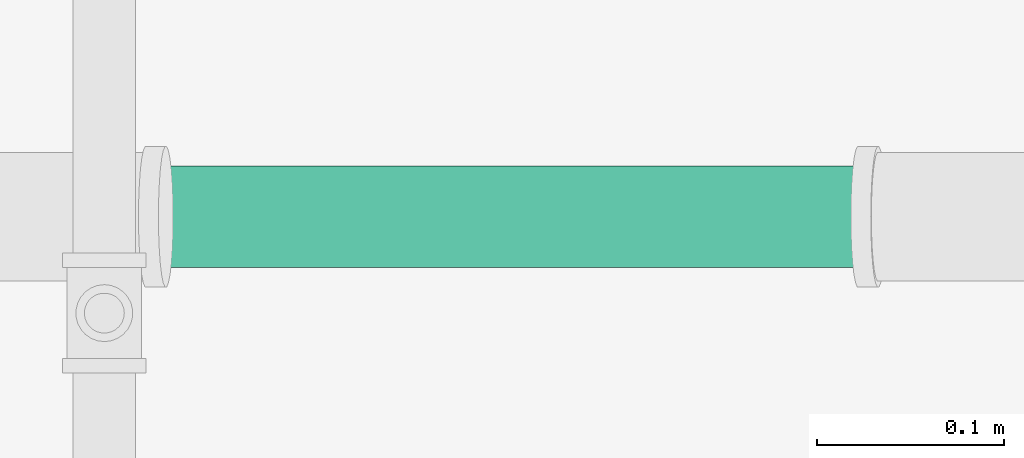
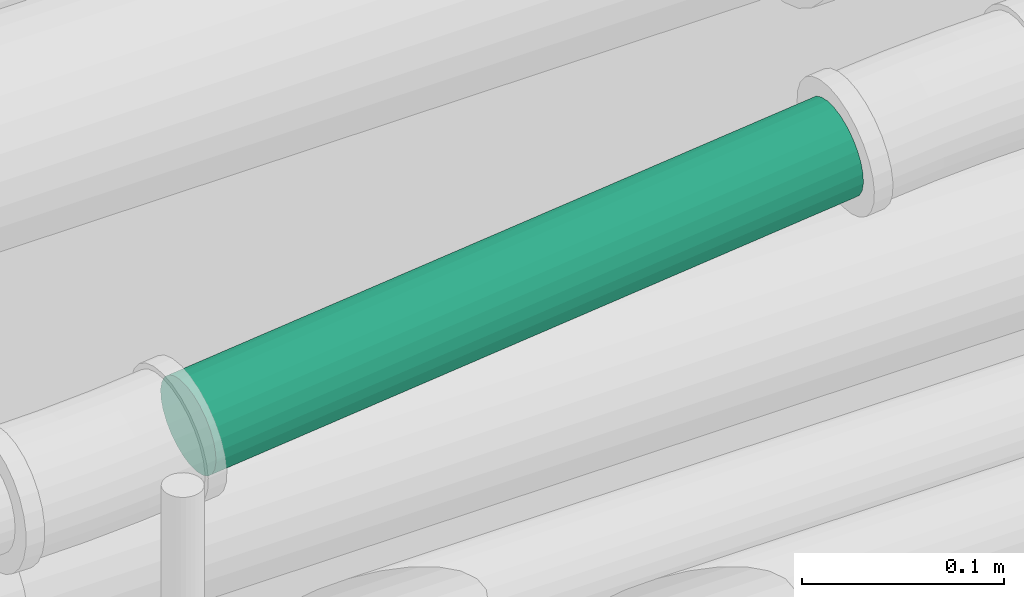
# One storey, part 67 of 108: 1 pipe segment.
"""IFC4 building model written with IfcOpenShell, lengths in feet."""

import ifcopenshell
import ifcopenshell.guid

model = None  # the IFC model being written
_history = None  # IfcOwnerHistory: only IFC2X3 demands one
_inside = {}  # id of a spatial element -> (the spatial element, [elements in it])
_under = {}  # id of a project, library or spatial element -> (it, [spatial elements below it])
_declared = {}  # id of a project -> (the project, [libraries it declares])
_typed = {}  # id of a type object -> (the type object, [elements of that type])
_made_of = {}  # id of a material, layer set ... -> (it, [elements and type objects made of it])


def new_model(schema):
    """Start an empty IFC model of exactly this schema.

    Asked for "IFC4X3", IfcOpenShell would pick the latest addendum, in which some entities
    have other attributes; the version numbers below select the first issue.
    IFC2X3 requires an IfcOwnerHistory on every rooted entity: one is made here for all.
    """
    global model, _history
    if schema == "IFC4X3":
        model = ifcopenshell.file(schema_version=(4, 3, 0, 0))
    else:
        model = ifcopenshell.file(schema=schema)
    _inside.clear()
    _under.clear()
    _declared.clear()
    _typed.clear()
    _made_of.clear()
    _history = None
    if model.schema == "IFC2X3":
        org = make("IfcOrganization", Name="unknown")
        user = make(
            "IfcPersonAndOrganization",
            ThePerson=make("IfcPerson", FamilyName="unknown"),
            TheOrganization=org,
        )
        app = make(
            "IfcApplication",
            ApplicationDeveloper=org,
            Version="unknown",
            ApplicationFullName="unknown",
            ApplicationIdentifier="unknown",
        )
        _history = make(
            "IfcOwnerHistory",
            OwningUser=user,
            OwningApplication=app,
            ChangeAction="ADDED",
            CreationDate=0,
        )
    return model


def make(cls, **values):
    """One entity of the class cls with the attributes given. An attribute that is None is left unset."""
    return model.create_entity(
        cls, **{name: value for name, value in values.items() if value is not None}
    )


def entity(cls, *values):
    """Any entity or typed value of the class cls, its attributes in the order of the schema. None: left unset."""
    e = model.create_entity(cls)
    for i, value in enumerate(values):
        if value is not None:
            e[i] = value
    return e


def rooted(cls, **values):
    """An entity with a GlobalId (a new one), such as an element, a storey or a relation."""
    return make(cls, GlobalId=ifcopenshell.guid.new(), OwnerHistory=_history, **values)


def si_unit(unit_type, name, prefix=None):
    """IfcSIUnit, for example si_unit("LENGTHUNIT", "METRE", prefix="MILLI")."""
    return make("IfcSIUnit", UnitType=unit_type, Prefix=prefix, Name=name)


def converted_unit(unit_type, name, factor, base, dimensions=None, offset=None):
    """IfcConversionBasedUnit, such as the inch: factor (a typed value) times the base unit."""
    return make(
        "IfcConversionBasedUnit"
        if offset is None
        else "IfcConversionBasedUnitWithOffset",
        ConversionOffset=offset,
        Dimensions=None
        if dimensions is None
        else entity("IfcDimensionalExponents", *dimensions),
        UnitType=unit_type,
        Name=name,
        ConversionFactor=make(
            "IfcMeasureWithUnit", ValueComponent=factor, UnitComponent=base
        ),
    )


def derived_unit(unit_type, elements):
    """IfcDerivedUnit: a product of units, each with its exponent."""
    return make(
        "IfcDerivedUnit",
        Elements=[
            make("IfcDerivedUnitElement", Unit=unit, Exponent=power)
            for unit, power in elements
        ],
        UnitType=unit_type,
    )


def assignment(units):
    """IfcUnitAssignment: the units of a project."""
    return None if units is None else make("IfcUnitAssignment", Units=units)


def point(xyz):
    """IfcCartesianPoint."""
    return None if xyz is None else make("IfcCartesianPoint", Coordinates=xyz)


def direction(xyz):
    """IfcDirection."""
    return None if xyz is None else make("IfcDirection", DirectionRatios=xyz)


def frame(location, z_axis=None, x_axis=None):
    """IfcAxis2Placement3D, a coordinate frame: its origin and axes. An axis left out is left unset."""
    return make(
        "IfcAxis2Placement3D",
        Location=point(location),
        Axis=direction(z_axis),
        RefDirection=direction(x_axis),
    )


def frame_2d(location, x_axis=None):
    """IfcAxis2Placement2D, a coordinate frame in the plane: its origin and x axis."""
    return make(
        "IfcAxis2Placement2D", Location=point(location), RefDirection=direction(x_axis)
    )


def origin():
    """The frame at (0, 0, 0) with its axes left unset."""
    return frame((0.0, 0.0, 0.0))


def origin_2d_with_axis():
    """The frame at (0, 0) in the plane with the x axis (1, 0) written out."""
    return frame_2d((0.0, 0.0), x_axis=(1.0, 0.0))


def place(relative_to, where):
    """IfcLocalPlacement: puts the frame where relative to a parent placement (None: the world)."""
    return make(
        "IfcLocalPlacement", PlacementRelTo=relative_to, RelativePlacement=where
    )


def context(
    kind, dimensions, precision=None, world=None, true_north=None, identifier=None
):
    """IfcGeometricRepresentationContext, for example the 3D "Model" context."""
    return make(
        "IfcGeometricRepresentationContext",
        ContextIdentifier=identifier,
        ContextType=kind,
        CoordinateSpaceDimension=dimensions,
        Precision=precision,
        WorldCoordinateSystem=world,
        TrueNorth=true_north,
    )


def subcontext(parent, identifier, kind, view, scale=None):
    """IfcGeometricRepresentationSubContext, for example "Body" below "Model"."""
    return make(
        "IfcGeometricRepresentationSubContext",
        ContextIdentifier=identifier,
        ContextType=kind,
        ParentContext=parent,
        TargetScale=scale,
        TargetView=view,
    )


def project(units=None, contexts=None):
    """IfcProject with its units and contexts."""
    return rooted(
        "IfcProject",
        Name="project",
        RepresentationContexts=contexts,
        UnitsInContext=assignment(units),
    )


def spatial(cls, under=None, at=None, **own):
    """A site, building, storey or space (cls), placed at a placement, below another one or the project."""
    s = rooted(cls, ObjectPlacement=at, **own)
    if under is not None:
        _under.setdefault(under.id(), (under, []))[1].append(s)
    return s


def profile(cls, at=None, kind="AREA", **sizes):
    """A parametric profile (cls). Its sizes go by their IFC names, for example OverallWidth=200.0."""
    return make(cls, ProfileType=kind, Position=at, **sizes)


def circle(**sizes):
    """IfcCircleProfileDef."""
    return profile("IfcCircleProfileDef", **sizes)


def extrude(swept, where, along, depth):
    """IfcExtrudedAreaSolid: the profile swept, set in the frame where, extruded along a direction by depth."""
    return make(
        "IfcExtrudedAreaSolid",
        SweptArea=swept,
        Position=where,
        ExtrudedDirection=direction(along),
        Depth=depth,
    )


def shape(context_of_items, identifier, shape_type, items):
    """IfcShapeRepresentation: the items that make up one representation, for example the "Body"."""
    return make(
        "IfcShapeRepresentation",
        ContextOfItems=context_of_items,
        RepresentationIdentifier=identifier,
        RepresentationType=shape_type,
        Items=items,
    )


def made_of(thing, what):
    """Note that an element or type object is made of a material, layer set ...; save() writes the relation."""
    if what is not None:
        _made_of.setdefault(what.id(), (what, []))[1].append(thing)
    return thing


def type_object(cls, material=None, **own):
    """A type object (cls), such as IfcWallType, which elements share."""
    return made_of(rooted(cls, **own), material)


def element(
    cls,
    number,
    at=None,
    inside=None,
    cuts=None,
    type_object=None,
    material=None,
    context=None,
    identifier="Body",
    shape_type=None,
    held_by="IfcProductDefinitionShape",
    body=None,
    shapes=None,
    **own,
):
    """One element of the class cls, such as IfcWall. Its Tag is "e" and its number.

    at: its placement. inside: the storey or other place that contains it. cuts: it is an
    opening in that element (IfcRelVoidsElement). A single representation is given by context,
    identifier, shape_type and body (its items); several are given by shapes. held_by: the class
    of the entity that holds the representations. save() writes the other relations.
    """
    e = rooted(cls, Tag="e%d" % number, ObjectPlacement=at, **own)
    if body is not None:
        shapes = [shape(context, identifier, shape_type, body)]
    if shapes is not None:
        e.Representation = make(held_by, Representations=shapes)
    if inside is not None:
        _inside.setdefault(inside.id(), (inside, []))[1].append(e)
    if cuts is not None:
        rooted(
            "IfcRelVoidsElement", RelatingBuildingElement=cuts, RelatedOpeningElement=e
        )
    if type_object is not None:
        _typed.setdefault(type_object.id(), (type_object, []))[1].append(e)
    return made_of(e, material)


def aggregate(whole, parts):
    """IfcRelAggregates: a whole, such as a stair, and the parts it consists of."""
    return rooted("IfcRelAggregates", RelatingObject=whole, RelatedObjects=parts)


def save(model, path):
    """Write the relations noted so far, then the file.

    IfcRelAggregates (storeys below a building ...), IfcRelContainedInSpatialStructure (elements
    in a storey), IfcRelDefinesByType, IfcRelAssociatesMaterial and IfcRelDeclares: one each for
    every whole, place, type object, material and project.
    """
    for whole, parts in _under.values():
        aggregate(whole, parts)
    for where, things in _inside.values():
        rooted(
            "IfcRelContainedInSpatialStructure",
            RelatedElements=things,
            RelatingStructure=where,
        )
    for kind, things in _typed.values():
        rooted("IfcRelDefinesByType", RelatedObjects=things, RelatingType=kind)
    for what, things in _made_of.values():
        rooted("IfcRelAssociatesMaterial", RelatedObjects=things, RelatingMaterial=what)
    for by, libraries in _declared.values():
        rooted("IfcRelDeclares", RelatingContext=by, RelatedDefinitions=libraries)
    model.write(path)


model = new_model("IFC4")

# Units and contexts
model_context = context("Model", 3, precision=0.0001, world=origin(), true_north=direction((6.12303176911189e-17, 1.0)))
body_context = subcontext(model_context, "Body", "Model", "MODEL_VIEW")
ifc_project = project(units=[converted_unit("LENGTHUNIT", "FOOT", entity("IfcRatioMeasure", 0.3048), si_unit("LENGTHUNIT", "METRE"), dimensions=[1, 0, 0, 0, 0, 0, 0]), converted_unit("AREAUNIT", "SQUARE FOOT", entity("IfcRatioMeasure", 0.09290304), si_unit("AREAUNIT", "SQUARE_METRE"), dimensions=[2, 0, 0, 0, 0, 0, 0]), converted_unit("VOLUMEUNIT", "CUBIC FOOT", entity("IfcRatioMeasure", 0.028316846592), si_unit("VOLUMEUNIT", "CUBIC_METRE"), dimensions=[3, 0, 0, 0, 0, 0, 0]), converted_unit("PLANEANGLEUNIT", "DEGREE", entity("IfcRatioMeasure", 0.0174532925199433), si_unit("PLANEANGLEUNIT", "RADIAN"), dimensions=[0, 0, 0, 0, 0, 0, 0]), si_unit("MASSUNIT", "GRAM", prefix="KILO"), derived_unit("MASSDENSITYUNIT", [(si_unit("MASSUNIT", "GRAM", prefix="KILO"), 1), (si_unit("LENGTHUNIT", "METRE"), -3)]), si_unit("TIMEUNIT", "SECOND"), si_unit("FREQUENCYUNIT", "HERTZ"), si_unit("THERMODYNAMICTEMPERATUREUNIT", "DEGREE_CELSIUS"), derived_unit("THERMALTRANSMITTANCEUNIT", [(si_unit("MASSUNIT", "GRAM", prefix="KILO"), 1), (si_unit("THERMODYNAMICTEMPERATUREUNIT", "KELVIN"), -1), (si_unit("TIMEUNIT", "SECOND"), -3)]), derived_unit("VOLUMETRICFLOWRATEUNIT", [(si_unit("LENGTHUNIT", "METRE"), 3), (si_unit("TIMEUNIT", "SECOND"), -1)]), si_unit("ELECTRICCURRENTUNIT", "AMPERE"), si_unit("ELECTRICVOLTAGEUNIT", "VOLT"), si_unit("POWERUNIT", "WATT"), si_unit("FORCEUNIT", "NEWTON"), si_unit("ILLUMINANCEUNIT", "LUX"), si_unit("LUMINOUSFLUXUNIT", "LUMEN"), si_unit("LUMINOUSINTENSITYUNIT", "CANDELA"), derived_unit("USERDEFINED", [(si_unit("MASSUNIT", "GRAM", prefix="KILO"), -1), (si_unit("LENGTHUNIT", "METRE"), -2), (si_unit("TIMEUNIT", "SECOND"), 3), (si_unit("LUMINOUSFLUXUNIT", "LUMEN"), 1)]), derived_unit("LINEARVELOCITYUNIT", [(si_unit("LENGTHUNIT", "METRE"), 1), (si_unit("TIMEUNIT", "SECOND"), -1)]), si_unit("PRESSUREUNIT", "PASCAL"), derived_unit("USERDEFINED", [(si_unit("LENGTHUNIT", "METRE"), -2), (si_unit("MASSUNIT", "GRAM", prefix="KILO"), 1), (si_unit("TIMEUNIT", "SECOND"), -2)])], contexts=[model_context])

# Site, building, storey
site_placement = place(None, origin())
site = spatial("IfcSite", under=ifc_project, at=site_placement, Name="Default", CompositionType="ELEMENT")
building_placement = place(site_placement, origin())
building = spatial("IfcBuilding", under=site, at=building_placement, CompositionType="ELEMENT")
storey_placement = place(building_placement, frame((0.0, 0.0, 168.0)))
storey = spatial("IfcBuildingStorey", under=building, at=storey_placement, Name="Level 15", CompositionType="ELEMENT", Elevation=168.0)

# Pipe segment
pipe_segment_type = type_object("IfcPipeSegmentType", Name="Pipe Types:Hydronic", PredefinedType="NOTDEFINED")
pipe_segment_placement = place(storey_placement, frame((-33.4142641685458, 10.3276273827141, 9.71802157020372)))
element("IfcPipeSegment", 1, at=pipe_segment_placement, inside=storey, type_object=pipe_segment_type, Name="Pipe Types:Hydronic", ObjectType="Pipe Types:Hydronic", PredefinedType="NOTDEFINED", context=body_context, shape_type="SweptSolid", body=[
    extrude(circle(Radius=0.0885416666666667, at=origin_2d_with_axis()), frame((0.014488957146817, 0.0937754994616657, 0.0932904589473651), z_axis=(0.994521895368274, 0.0, 0.104528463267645), x_axis=(0.0, -1.0, 0.0)), (0.0, 0.0, 1.0), 1.21857662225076),
])

save(model, "model.ifc")
